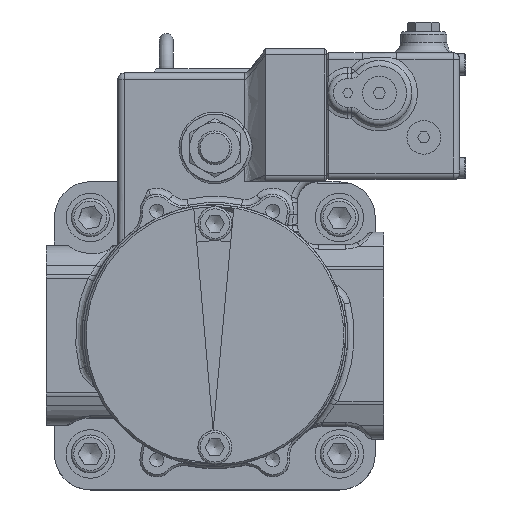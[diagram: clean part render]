
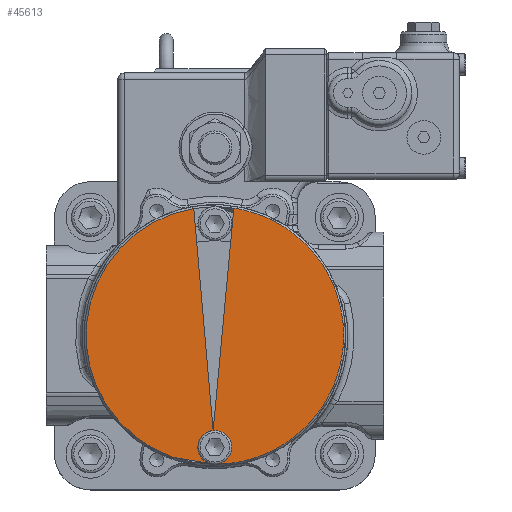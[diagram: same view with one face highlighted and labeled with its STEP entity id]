
A CAD part, top view. The second image highlights one B-rep face of the part: STEP entity #45613.
In plain terms, the highlighted planar face has unit normal (0, 0, 1).
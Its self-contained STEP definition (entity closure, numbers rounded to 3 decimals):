
#160=CARTESIAN_POINT('',(0.,-61.,258.7));
#161=VERTEX_POINT('',#160);
#162=CARTESIAN_POINT('',(0.,-53.,258.7));
#163=DIRECTION('',(0.0,0.0,-1.0));
#164=DIRECTION('',(0.0,1.0,0.0));
#165=AXIS2_PLACEMENT_3D('',#162,#163,#164);
#166=CIRCLE('',#165,8.);
#167=EDGE_CURVE('',#161,#161,#166,.T.);
#45504=CARTESIAN_POINT('',(0.,61.0,258.7));
#45505=VERTEX_POINT('',#45504);
#45506=CARTESIAN_POINT('',(0.,0.,258.7));
#45507=DIRECTION('',(0.0,0.0,-1.0));
#45508=DIRECTION('',(-1.0,0.0,0.0));
#45509=AXIS2_PLACEMENT_3D('',#45506,#45507,#45508);
#45510=CIRCLE('',#45509,61.0);
#45511=EDGE_CURVE('',#161,#45505,#45510,.T.);
#45513=CARTESIAN_POINT('',(0.,0.,258.7));
#45514=DIRECTION('',(0.0,0.0,-1.0));
#45515=DIRECTION('',(-1.0,0.0,0.0));
#45516=AXIS2_PLACEMENT_3D('',#45513,#45514,#45515);
#45517=CIRCLE('',#45516,61.0);
#45518=EDGE_CURVE('',#45505,#161,#45517,.T.);
#45596=CARTESIAN_POINT('',(0.,0.,258.7));
#45597=DIRECTION('',(0.0,0.0,-1.0));
#45598=DIRECTION('',(-1.0,0.0,0.0));
#45599=AXIS2_PLACEMENT_3D('',#45596,#45597,#45598);
#45600=PLANE('',#45599);
#45601=ORIENTED_EDGE('',*,*,#45511,.F.);
#45602=ORIENTED_EDGE('',*,*,#167,.T.);
#45603=ORIENTED_EDGE('',*,*,#45518,.F.);
#45604=CARTESIAN_POINT('',(0.,53.,258.7));
#45605=DIRECTION('',(0.0,0.0,-1.0));
#45606=DIRECTION('',(0.0,1.0,0.0));
#45607=AXIS2_PLACEMENT_3D('',#45604,#45605,#45606);
#45608=CIRCLE('',#45607,8.);
#45609=EDGE_CURVE('',#45505,#45505,#45608,.T.);
#45610=ORIENTED_EDGE('',*,*,#45609,.T.);
#45611=EDGE_LOOP('',(#45601,#45602,#45603,#45610));
#45612=FACE_OUTER_BOUND('',#45611,.T.);
#45613=ADVANCED_FACE('',(#45612),#45600,.F.);
